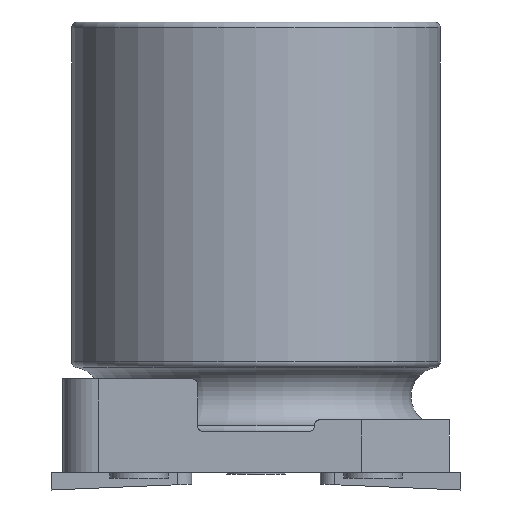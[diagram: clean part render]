
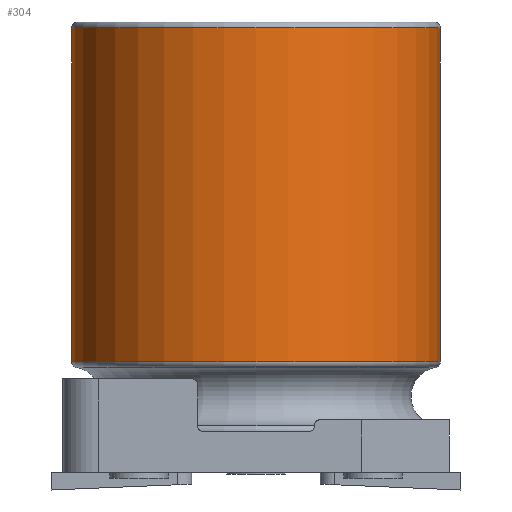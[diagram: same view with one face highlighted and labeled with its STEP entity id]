
A CAD part, front view. The second image highlights one B-rep face of the part: STEP entity #304.
In plain terms, the highlighted cylindrical face has radius 3.15 mm (diameter 6.3 mm), a full revolution.
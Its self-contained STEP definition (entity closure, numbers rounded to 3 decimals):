
#205=CYLINDRICAL_SURFACE('',#1434,3.15);
#244=FACE_BOUND('',#486,.T.);
#245=FACE_BOUND('',#487,.T.);
#304=ADVANCED_FACE('',(#244,#245),#205,.T.);
#486=EDGE_LOOP('',(#805));
#487=EDGE_LOOP('',(#806));
#556=CIRCLE('',#1432,3.15);
#557=CIRCLE('',#1433,3.15);
#805=ORIENTED_EDGE('',*,*,#1122,.T.);
#806=ORIENTED_EDGE('',*,*,#1123,.T.);
#973=VERTEX_POINT('',#2211);
#974=VERTEX_POINT('',#2213);
#1122=EDGE_CURVE('',#973,#973,#556,.T.);
#1123=EDGE_CURVE('',#974,#974,#557,.T.);
#1432=AXIS2_PLACEMENT_3D('',#2210,#1713,#1714);
#1433=AXIS2_PLACEMENT_3D('',#2212,#1715,#1716);
#1434=AXIS2_PLACEMENT_3D('',#2214,#1717,#1718);
#1713=DIRECTION('',(0.,0.,1.));
#1714=DIRECTION('',(1.,0.,0.));
#1715=DIRECTION('',(0.,0.,-1.));
#1716=DIRECTION('',(-1.,0.,0.));
#1717=DIRECTION('',(0.,0.,-1.));
#1718=DIRECTION('',(-1.,0.,0.));
#2210=CARTESIAN_POINT('',(0.,0.,1.892));
#2211=CARTESIAN_POINT('',(3.15,0.,1.892));
#2212=CARTESIAN_POINT('',(0.,0.,7.6));
#2213=CARTESIAN_POINT('',(-3.15,0.,7.6));
#2214=CARTESIAN_POINT('',(0.,0.,0.));
